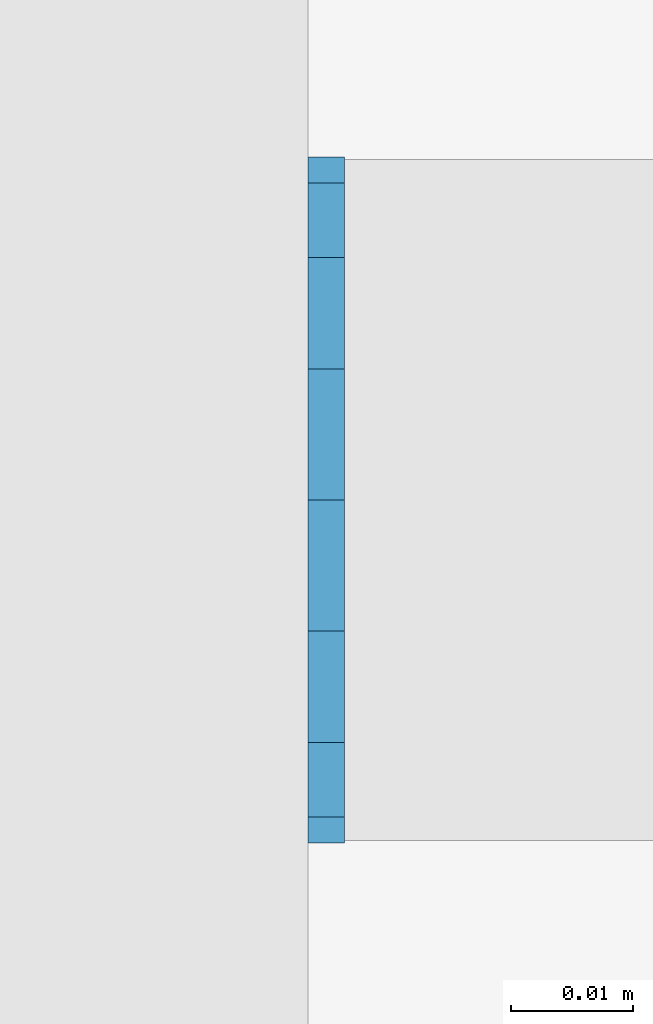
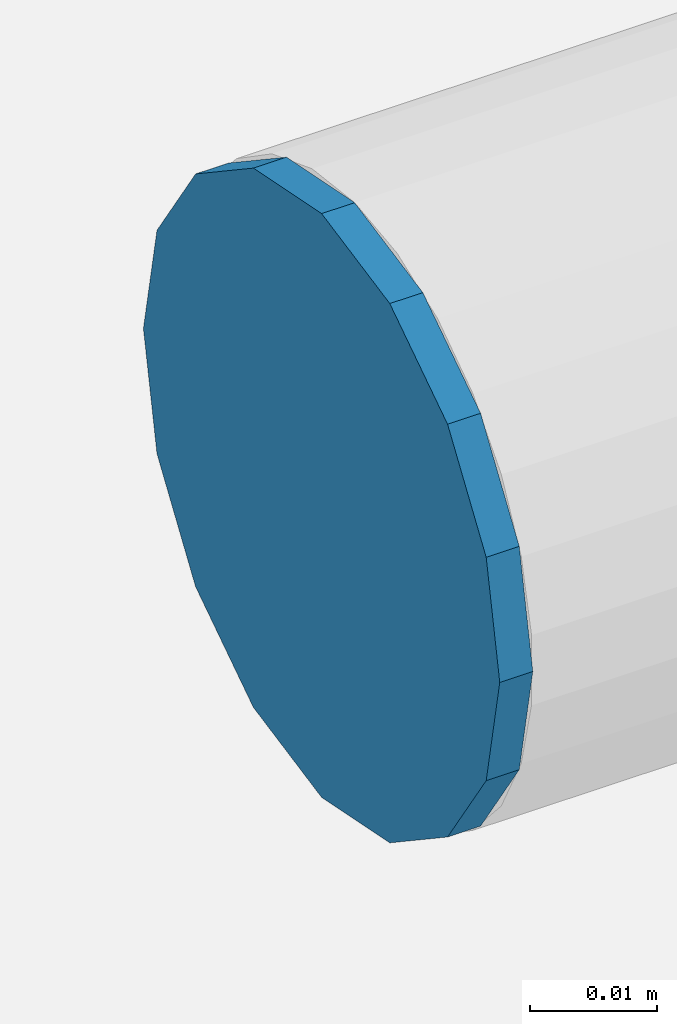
# One storey, part 30 of 230: 1 beam.
"""IFC4X3_ADD2 building model written with IfcOpenShell, lengths in millimetres."""

from ifc_helpers import new_model, si_unit, direction, frame, origin_with_axes, place, context, subcontext, project, spatial, indexed_curve, outline, extrude, material, element, save


model = new_model("IFC4X3_ADD2")

# Units and contexts
model_context = context("Model", 3, precision=1e-05, world=origin_with_axes(), true_north=direction((0.0, 1.0)))
body_context = subcontext(model_context, "Body", "Model", "MODEL_VIEW")
ifc_project = project(units=[si_unit("LENGTHUNIT", "METRE", prefix="MILLI"), si_unit("AREAUNIT", "SQUARE_METRE"), si_unit("VOLUMEUNIT", "CUBIC_METRE"), si_unit("PLANEANGLEUNIT", "RADIAN"), si_unit("TIMEUNIT", "SECOND"), si_unit("MASSUNIT", "GRAM")], contexts=[model_context])

# Site, building, storey
site_placement = place(None, origin_with_axes())
site = spatial("IfcSite", under=ifc_project, at=site_placement, Name="Site", CompositionType="ELEMENT")
building_placement = place(site_placement, origin_with_axes())
building = spatial("IfcBuilding", under=site, at=building_placement, Name="IFC Building Story")
storey_placement = place(building_placement, origin_with_axes())
storey = spatial("IfcBuildingStorey", under=building, at=storey_placement, Name="ETAGE 00 (0)", Elevation=0.0)

# Beam
ifc_material = material(Name="STEEL/Accessory 22919")
beam_placement = place(storey_placement, frame((4769.18934822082, 349.9999637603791, 1190.0), z_axis=(-1.0, 0.0, 0.0), x_axis=(0.0, 0.1950903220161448, 0.9807852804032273)))
element("IfcBeam", 1, at=beam_placement, inside=storey, material=ifc_material, Name="TA4", ObjectType="D56", context=body_context, shape_type="SweptSolid", body=[
    extrude(outline(indexed_curve([(23.28114914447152, 15.55596652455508), (27.46198785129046, 5.462529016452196), (27.46198785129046, -5.462529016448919), (23.28114914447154, -15.55596652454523), (15.55596652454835, -23.28114914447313), (5.462529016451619, -27.46198785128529), (-5.462529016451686, -27.46198785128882), (-15.55596652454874, -23.28114914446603), (-23.2811491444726, -15.55596652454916), (-27.46198785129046, -5.462529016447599), (-27.46198785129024, 5.462529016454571), (-23.28114914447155, 15.55596652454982), (-15.55596652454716, 23.28114914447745), (-5.462529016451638, 27.46198785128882), (5.462529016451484, 27.46198785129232), (15.55596652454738, 23.28114914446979), (23.28114914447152, 15.55596652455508)])), origin_with_axes(), (0.0, 0.0, 1.0), 3.0),
])

save(model, "model.ifc")
